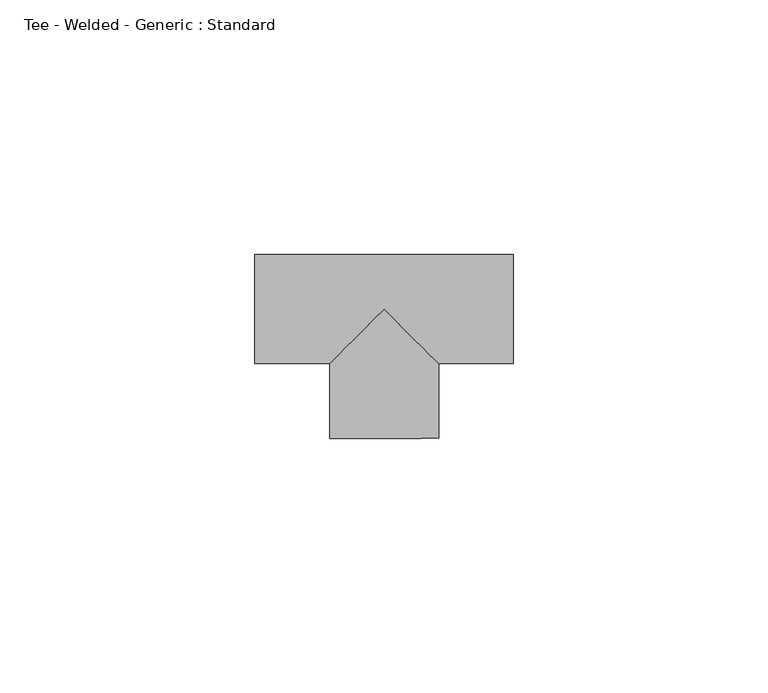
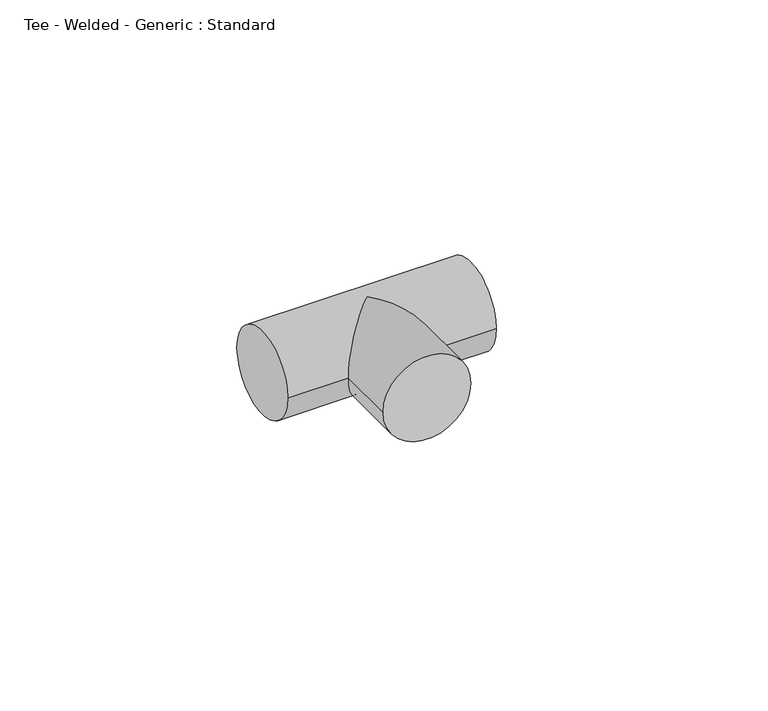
"""IFC4 building model written with IfcOpenShell, lengths in millimetres: pipe fitting geometry, Tee - Welded - Generic : Standard."""

from ifc_helpers import new_model, si_unit, frame, origin, place, context, project, spatial, circle_curve, ellipse_curve, source, transform, mapped, element, save
from ifc_brep_helpers import plane_surface, cylinder_surface, advanced_brep


def tee_welded_generic_standard_ad243737(model_context):
    return source(origin(), model_context, "Body", "AdvancedBrep", [
        advanced_brep(
        [(-25.4, -10.715625, 0.0), (-25.4, 10.715625, 0.0), (25.4, -10.715625, 0.0), (25.4, 10.715625, 0.0), (-10.6946224, -10.715625, 0.0), (0.0, 0.0, 10.715625), (10.7366688, -10.715625, 0.0), (0.0, 0.0, -10.715625), (-10.6657717, -25.4209743, 0.0), (10.765437, -25.378928, 0.0)],
        [
            (0, 1, circle_curve(frame((-25.4, 0.0, 0.0), z_axis=(-1.0, 0.0, 0.0), x_axis=(0.0, 1.0, 0.0)), 10.715625)),
            (1, 0, circle_curve(frame((-25.4, 0.0, 0.0), z_axis=(-1.0, 0.0, 0.0), x_axis=(0.0, 1.0, 0.0)), 10.715625)),
            (2, 3, circle_curve(frame((25.4, 0.0, 0.0), z_axis=(1.0, 0.0, 0.0), x_axis=(0.0, 1.0, 0.0)), 10.715625)),
            (3, 2, circle_curve(frame((25.4, 0.0, 0.0), z_axis=(1.0, 0.0, 0.0), x_axis=(0.0, 1.0, 0.0)), 10.715625)),
            (0, 4),
            (4, 5, ellipse_curve(frame((0.0, 0.0, 0.0), z_axis=(-0.7078000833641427, 0.7064127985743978, 0.0), x_axis=(-0.7064127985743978, -0.7078000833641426, 0.0)), 15.1393384, 10.715625)),
            (5, 6, ellipse_curve(frame((0.0, 0.0, 0.0), z_axis=(0.7064127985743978, 0.7078000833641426, 0.0), x_axis=(-0.7078000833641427, 0.7064127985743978, 0.0)), 15.1690697, 10.715625)),
            (6, 2),
            (3, 1),
            (6, 7, ellipse_curve(frame((0.0, 0.0, 0.0), z_axis=(0.7064127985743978, 0.7078000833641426, 0.0), x_axis=(-0.7078000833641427, 0.7064127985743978, 0.0)), 15.1690697, 10.715625)),
            (7, 4, ellipse_curve(frame((0.0, 0.0, 0.0), z_axis=(-0.7078000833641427, 0.7064127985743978, 0.0), x_axis=(-0.7064127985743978, -0.7078000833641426, 0.0)), 15.1393384, 10.715625)),
            (8, 9, circle_curve(frame((0.0498327, -25.3999511, 0.0), z_axis=(0.00196191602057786, -0.9999980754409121, 0.0), x_axis=(0.9999980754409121, 0.00196191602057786, 0.0)), 10.715625)),
            (9, 8, circle_curve(frame((0.0498327, -25.3999511, 0.0), z_axis=(0.00196191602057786, -0.9999980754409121, 0.0), x_axis=(0.9999980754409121, 0.00196191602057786, 0.0)), 10.715625)),
            (9, 6),
            (4, 8),
        ],
        [
            plane_surface(frame((-25.4, 0.0, 0.0), z_axis=(-1.0, 0.0, 0.0), x_axis=(0.0, 0.0, 1.0))),
            plane_surface(frame((25.4, 0.0, 0.0), z_axis=(1.0, 0.0, 0.0), x_axis=(0.0, 0.0, 1.0))),
            cylinder_surface(frame((-25.4, 0.0, 0.0), z_axis=(-1.0, 0.0, 0.0), x_axis=(0.0, 1.0, 0.0)), 10.715625),
            plane_surface(frame((0.0498327, -25.3999511, 0.0), z_axis=(0.00196191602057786, -0.9999980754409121, 0.0), x_axis=(0.0, 0.0, 1.0))),
            cylinder_surface(frame((0.0, 0.0, 0.0), z_axis=(-0.00196191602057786, 0.9999980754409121, 0.0), x_axis=(0.9999980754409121, 0.00196191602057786, 0.0)), 10.715625),
        ],
        [
            (0, [[1, 2]]),
            (1, [[3, 4]]),
            (2, [[-1, 5, 6, 7, 8, -4, 9]]),
            (2, [[-2, -9, -3, -8, 10, 11, -5]]),
            (3, [[12, 13]]),
            (4, [[-13, 14, -7, -6, 15]]),
            (4, [[-12, -15, -11, -10, -14]]),
        ],
    ),
    ])


if __name__ == "__main__":
    model = new_model("IFC4")
    model_context = context("Model", 3, world=origin())
    ifc_project = project(units=[si_unit("LENGTHUNIT", "METRE", prefix="MILLI")], contexts=[model_context])
    site = spatial("IfcSite", under=ifc_project)
    building = spatial("IfcBuilding", under=site)
    placement = place(None, origin())
    tee_welded_generic_standard_shape = tee_welded_generic_standard_ad243737(model_context)
    element("IfcPipeFitting", 1, ObjectType="Tee - Welded - Generic : Standard", at=placement, inside=building, context=model_context, shape_type="MappedRepresentation", body=[
        mapped(tee_welded_generic_standard_shape, transform((0.0, 0.0, 0.0), x_axis=(1.0, 0.0, 0.0), y_axis=(0.0, 1.0, 0.0), z_axis=(0.0, 0.0, 1.0))),
    ])
    save(model, "model.ifc")
